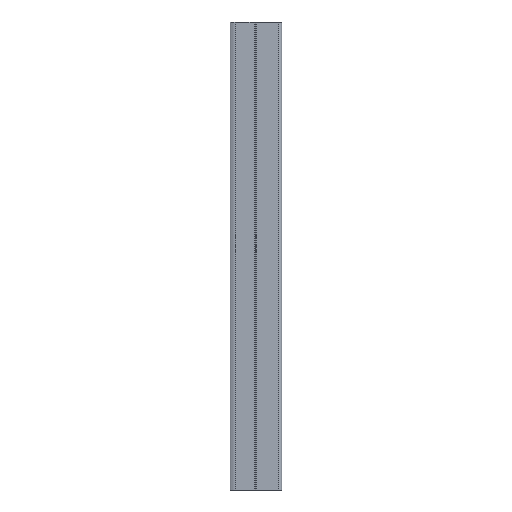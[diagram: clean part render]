
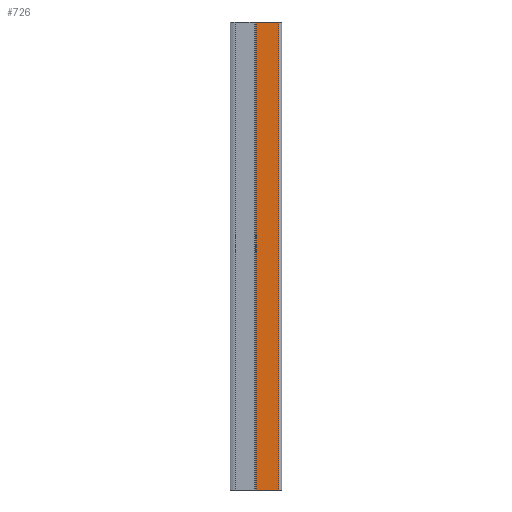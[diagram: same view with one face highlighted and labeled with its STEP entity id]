
A CAD part, left-side view. The second image highlights one B-rep face of the part: STEP entity #726.
In plain terms, the highlighted planar face has unit normal (-1, 0, 0).
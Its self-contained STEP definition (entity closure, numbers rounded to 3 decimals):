
#12 = VERTEX_POINT ( 'NONE', #784 ) ;
#24 = DIRECTION ( 'NONE',  ( 0., -1., 0. ) ) ;
#61 = DIRECTION ( 'NONE',  ( 0., -1., 0. ) ) ;
#108 = CARTESIAN_POINT ( 'NONE',  ( -15., -12., 250. ) ) ;
#133 = CARTESIAN_POINT ( 'NONE',  ( -15., 12.223, 252.163 ) ) ;
#167 = CARTESIAN_POINT ( 'NONE',  ( -15., -15., -250. ) ) ;
#182 = EDGE_CURVE ( 'NONE', #774, #452, #829, .T. ) ;
#213 = DIRECTION ( 'NONE',  ( 0., 0., 1. ) ) ;
#231 = PLANE ( 'NONE',  #478 ) ;
#317 = EDGE_LOOP ( 'NONE', ( #546, #959, #393, #618 ) ) ;
#319 = DIRECTION ( 'NONE',  ( 1., 0., 0. ) ) ;
#329 = CARTESIAN_POINT ( 'NONE',  ( -15., -12., -250. ) ) ;
#344 = EDGE_CURVE ( 'NONE', #362, #774, #576, .T. ) ;
#356 = VECTOR ( 'NONE', #213, 1000. ) ;
#362 = VERTEX_POINT ( 'NONE', #484 ) ;
#379 = LINE ( 'NONE', #133, #734 ) ;
#393 = ORIENTED_EDGE ( 'NONE', *, *, #406, .F. ) ;
#406 = EDGE_CURVE ( 'NONE', #12, #452, #540, .T. ) ;
#435 = CARTESIAN_POINT ( 'NONE',  ( -15., -15., 250. ) ) ;
#452 = VERTEX_POINT ( 'NONE', #108 ) ;
#478 = AXIS2_PLACEMENT_3D ( 'NONE', #575, #319, #919 ) ;
#484 = CARTESIAN_POINT ( 'NONE',  ( -15., 12.223, -250. ) ) ;
#529 = EDGE_CURVE ( 'NONE', #12, #362, #379, .T. ) ;
#540 = LINE ( 'NONE', #435, #567 ) ;
#546 = ORIENTED_EDGE ( 'NONE', *, *, #344, .T. ) ;
#567 = VECTOR ( 'NONE', #24, 1000. ) ;
#575 = CARTESIAN_POINT ( 'NONE',  ( -15., -15., 250. ) ) ;
#576 = LINE ( 'NONE', #167, #1017 ) ;
#618 = ORIENTED_EDGE ( 'NONE', *, *, #529, .T. ) ;
#726 = ADVANCED_FACE ( 'NONE', ( #1002 ), #231, .F. ) ;
#734 = VECTOR ( 'NONE', #1060, 1000. ) ;
#774 = VERTEX_POINT ( 'NONE', #329 ) ;
#784 = CARTESIAN_POINT ( 'NONE',  ( -15., 12.223, 250. ) ) ;
#829 = LINE ( 'NONE', #914, #356 ) ;
#914 = CARTESIAN_POINT ( 'NONE',  ( -15., -12., 250. ) ) ;
#919 = DIRECTION ( 'NONE',  ( 0., 0., -1. ) ) ;
#959 = ORIENTED_EDGE ( 'NONE', *, *, #182, .T. ) ;
#1002 = FACE_OUTER_BOUND ( 'NONE', #317, .T. ) ;
#1017 = VECTOR ( 'NONE', #61, 1000. ) ;
#1060 = DIRECTION ( 'NONE',  ( 0., 0., -1. ) ) ;
